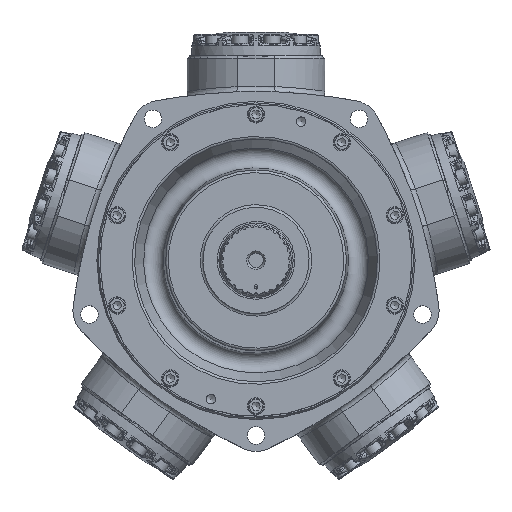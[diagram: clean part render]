
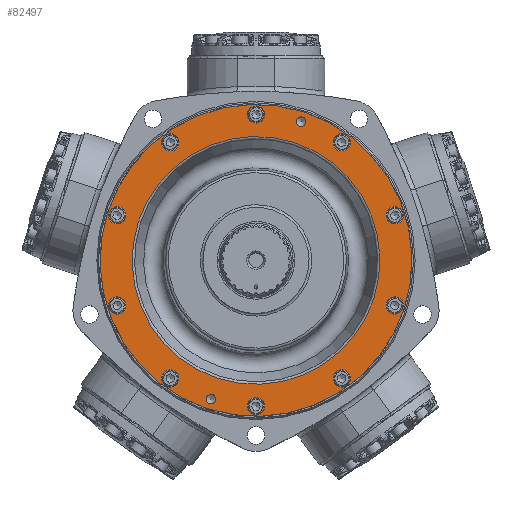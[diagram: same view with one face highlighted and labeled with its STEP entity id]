
A CAD part, top view. The second image highlights one B-rep face of the part: STEP entity #82497.
In plain terms, the highlighted planar face has unit normal (0, 0, 1).
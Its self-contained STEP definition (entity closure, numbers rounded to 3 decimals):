
#7560=FACE_BOUND('',#20275,.T.);
#7561=FACE_BOUND('',#20276,.T.);
#7562=FACE_BOUND('',#20277,.T.);
#7563=FACE_BOUND('',#20278,.T.);
#7564=FACE_BOUND('',#20279,.T.);
#7565=FACE_BOUND('',#20280,.T.);
#7566=FACE_BOUND('',#20281,.T.);
#7567=FACE_BOUND('',#20282,.T.);
#7568=FACE_BOUND('',#20283,.T.);
#7569=FACE_BOUND('',#20284,.T.);
#7570=FACE_BOUND('',#20285,.T.);
#7571=FACE_BOUND('',#20286,.T.);
#7572=FACE_BOUND('',#20287,.T.);
#10552=CIRCLE('',#88413,186.628);
#10554=CIRCLE('',#88417,5.664);
#10555=CIRCLE('',#88419,5.664);
#10557=CIRCLE('',#88422,10.319);
#10558=CIRCLE('',#88424,10.319);
#10560=CIRCLE('',#88427,10.319);
#10561=CIRCLE('',#88429,10.319);
#10563=CIRCLE('',#88432,10.319);
#10564=CIRCLE('',#88434,10.319);
#10565=CIRCLE('',#88436,10.319);
#10566=CIRCLE('',#88438,10.319);
#10568=CIRCLE('',#88441,10.319);
#10569=CIRCLE('',#88443,10.319);
#10570=CIRCLE('',#88445,148.273);
#15133=FACE_OUTER_BOUND('',#20274,.T.);
#20274=EDGE_LOOP('',(#62732));
#20275=EDGE_LOOP('',(#62733));
#20276=EDGE_LOOP('',(#62734));
#20277=EDGE_LOOP('',(#62735));
#20278=EDGE_LOOP('',(#62736));
#20279=EDGE_LOOP('',(#62737));
#20280=EDGE_LOOP('',(#62738));
#20281=EDGE_LOOP('',(#62739));
#20282=EDGE_LOOP('',(#62740));
#20283=EDGE_LOOP('',(#62741));
#20284=EDGE_LOOP('',(#62742));
#20285=EDGE_LOOP('',(#62743));
#20286=EDGE_LOOP('',(#62744));
#20287=EDGE_LOOP('',(#62745));
#34044=VERTEX_POINT('',#175392);
#34046=VERTEX_POINT('',#175400);
#34047=VERTEX_POINT('',#175404);
#34049=VERTEX_POINT('',#175410);
#34050=VERTEX_POINT('',#175414);
#34052=VERTEX_POINT('',#175420);
#34053=VERTEX_POINT('',#175424);
#34055=VERTEX_POINT('',#175430);
#34056=VERTEX_POINT('',#175434);
#34057=VERTEX_POINT('',#175438);
#34058=VERTEX_POINT('',#175442);
#34060=VERTEX_POINT('',#175448);
#34061=VERTEX_POINT('',#175452);
#34062=VERTEX_POINT('',#175456);
#44018=EDGE_CURVE('',#34044,#34044,#10552,.T.);
#44022=EDGE_CURVE('',#34046,#34046,#10554,.T.);
#44024=EDGE_CURVE('',#34047,#34047,#10555,.T.);
#44028=EDGE_CURVE('',#34049,#34049,#10557,.T.);
#44030=EDGE_CURVE('',#34050,#34050,#10558,.T.);
#44033=EDGE_CURVE('',#34052,#34052,#10560,.T.);
#44035=EDGE_CURVE('',#34053,#34053,#10561,.T.);
#44038=EDGE_CURVE('',#34055,#34055,#10563,.T.);
#44040=EDGE_CURVE('',#34056,#34056,#10564,.T.);
#44042=EDGE_CURVE('',#34057,#34057,#10565,.T.);
#44044=EDGE_CURVE('',#34058,#34058,#10566,.T.);
#44047=EDGE_CURVE('',#34060,#34060,#10568,.T.);
#44049=EDGE_CURVE('',#34061,#34061,#10569,.T.);
#44050=EDGE_CURVE('',#34062,#34062,#10570,.T.);
#62732=ORIENTED_EDGE('',*,*,#44018,.T.);
#62733=ORIENTED_EDGE('',*,*,#44022,.T.);
#62734=ORIENTED_EDGE('',*,*,#44024,.T.);
#62735=ORIENTED_EDGE('',*,*,#44028,.T.);
#62736=ORIENTED_EDGE('',*,*,#44030,.T.);
#62737=ORIENTED_EDGE('',*,*,#44033,.T.);
#62738=ORIENTED_EDGE('',*,*,#44035,.T.);
#62739=ORIENTED_EDGE('',*,*,#44038,.T.);
#62740=ORIENTED_EDGE('',*,*,#44040,.T.);
#62741=ORIENTED_EDGE('',*,*,#44042,.T.);
#62742=ORIENTED_EDGE('',*,*,#44044,.T.);
#62743=ORIENTED_EDGE('',*,*,#44047,.T.);
#62744=ORIENTED_EDGE('',*,*,#44049,.T.);
#62745=ORIENTED_EDGE('',*,*,#44050,.F.);
#74030=PLANE('',#88444);
#82497=ADVANCED_FACE('',(#15133,#7560,#7561,#7562,#7563,#7564,#7565,#7566,
#7567,#7568,#7569,#7570,#7571,#7572),#74030,.T.);
#88413=AXIS2_PLACEMENT_3D('',#175393,#100992,#100993);
#88417=AXIS2_PLACEMENT_3D('',#175401,#101002,#101003);
#88419=AXIS2_PLACEMENT_3D('',#175405,#101007,#101008);
#88422=AXIS2_PLACEMENT_3D('',#175412,#101015,#101016);
#88424=AXIS2_PLACEMENT_3D('',#175416,#101020,#101021);
#88427=AXIS2_PLACEMENT_3D('',#175422,#101027,#101028);
#88429=AXIS2_PLACEMENT_3D('',#175426,#101032,#101033);
#88432=AXIS2_PLACEMENT_3D('',#175432,#101039,#101040);
#88434=AXIS2_PLACEMENT_3D('',#175436,#101044,#101045);
#88436=AXIS2_PLACEMENT_3D('',#175440,#101049,#101050);
#88438=AXIS2_PLACEMENT_3D('',#175444,#101054,#101055);
#88441=AXIS2_PLACEMENT_3D('',#175450,#101061,#101062);
#88443=AXIS2_PLACEMENT_3D('',#175454,#101066,#101067);
#88444=AXIS2_PLACEMENT_3D('',#175455,#101068,#101069);
#88445=AXIS2_PLACEMENT_3D('',#175457,#101070,#101071);
#100992=DIRECTION('center_axis',(0.,0.,
1.));
#100993=DIRECTION('ref_axis',(0.309,0.951,0.));
#101002=DIRECTION('center_axis',(0.,0.,
-1.));
#101003=DIRECTION('ref_axis',(0.951,-0.309,0.));
#101007=DIRECTION('center_axis',(0.,0.,
-1.));
#101008=DIRECTION('ref_axis',(0.951,-0.309,0.));
#101015=DIRECTION('center_axis',(0.,0.,
-1.));
#101016=DIRECTION('ref_axis',(-0.588,0.809,0.));
#101020=DIRECTION('center_axis',(0.,0.,
-1.));
#101021=DIRECTION('ref_axis',(0.,1.,0.));
#101027=DIRECTION('center_axis',(0.,0.,
-1.));
#101028=DIRECTION('ref_axis',(0.588,0.809,0.));
#101032=DIRECTION('center_axis',(0.,0.,
-1.));
#101033=DIRECTION('ref_axis',(0.951,0.309,0.));
#101039=DIRECTION('center_axis',(0.,0.,
-1.));
#101040=DIRECTION('ref_axis',(0.951,-0.309,0.));
#101044=DIRECTION('center_axis',(0.,0.,
-1.));
#101045=DIRECTION('ref_axis',(0.588,-0.809,0.));
#101049=DIRECTION('center_axis',(0.,0.,
-1.));
#101050=DIRECTION('ref_axis',(0.,-1.,0.));
#101054=DIRECTION('center_axis',(0.,0.,
-1.));
#101055=DIRECTION('ref_axis',(-0.588,-0.809,0.));
#101061=DIRECTION('center_axis',(0.,0.,
-1.));
#101062=DIRECTION('ref_axis',(-0.951,-0.309,0.));
#101066=DIRECTION('center_axis',(0.,0.,
-1.));
#101067=DIRECTION('ref_axis',(-0.951,0.309,0.));
#101068=DIRECTION('center_axis',(0.,0.,
1.));
#101069=DIRECTION('ref_axis',(0.951,-0.309,0.));
#101070=DIRECTION('center_axis',(0.,0.,
1.));
#101071=DIRECTION('ref_axis',(-0.309,-0.951,0.));
#175392=CARTESIAN_POINT('',(-57.671,-177.493,119.254));
#175393=CARTESIAN_POINT('Origin',(0.,0.,
119.254));
#175400=CARTESIAN_POINT('',(48.575,167.829,119.254));
#175401=CARTESIAN_POINT('Origin',(53.962,166.078,119.254));
#175404=CARTESIAN_POINT('',(-59.349,-164.328,119.254));
#175405=CARTESIAN_POINT('Origin',(-53.962,-166.078,119.254));
#175410=CARTESIAN_POINT('',(108.707,-149.623,119.254));
#175412=CARTESIAN_POINT('Origin',(102.642,-141.275,119.254));
#175414=CARTESIAN_POINT('',(0.,-184.944,119.254));
#175416=CARTESIAN_POINT('Origin',(0.,-174.625,119.254));
#175420=CARTESIAN_POINT('',(-108.707,-149.623,119.254));
#175422=CARTESIAN_POINT('Origin',(-102.642,-141.275,119.254));
#175424=CARTESIAN_POINT('',(-175.892,-57.151,119.254));
#175426=CARTESIAN_POINT('Origin',(-166.078,-53.962,119.254));
#175430=CARTESIAN_POINT('',(-175.892,57.151,119.254));
#175432=CARTESIAN_POINT('Origin',(-166.078,53.962,119.254));
#175434=CARTESIAN_POINT('',(-108.707,149.623,119.254));
#175436=CARTESIAN_POINT('Origin',(-102.642,141.275,119.254));
#175438=CARTESIAN_POINT('',(0.,184.944,119.254));
#175440=CARTESIAN_POINT('Origin',(0.,174.625,119.254));
#175442=CARTESIAN_POINT('',(108.707,149.623,119.254));
#175444=CARTESIAN_POINT('Origin',(102.642,141.275,119.254));
#175448=CARTESIAN_POINT('',(175.892,57.151,119.254));
#175450=CARTESIAN_POINT('Origin',(166.078,53.962,119.254));
#175452=CARTESIAN_POINT('',(175.892,-57.151,119.254));
#175454=CARTESIAN_POINT('Origin',(166.078,-53.962,119.254));
#175455=CARTESIAN_POINT('Origin',(52.49,161.549,119.254));
#175456=CARTESIAN_POINT('',(-141.016,45.819,119.254));
#175457=CARTESIAN_POINT('Origin',(0.,0.,
119.254));
